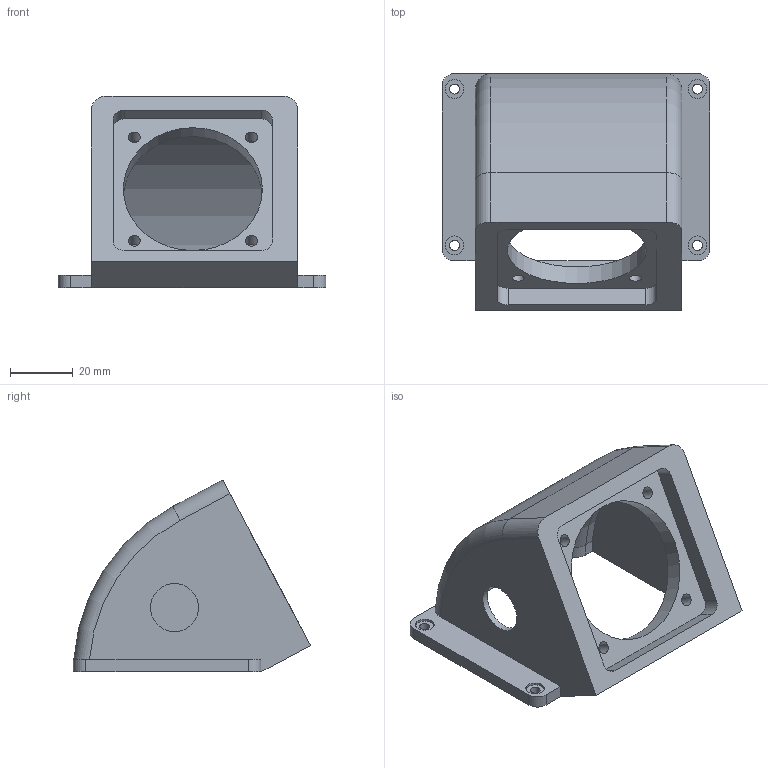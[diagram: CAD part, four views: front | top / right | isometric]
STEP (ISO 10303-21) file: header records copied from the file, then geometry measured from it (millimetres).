
FILE_DESCRIPTION(/* description */ (''),/* implementation_level */ '2;1');
FILE_NAME(/* name */ 'C:\Users\Karol\Documents\Inventor\gniazdo_desktop\Under-Desk_Socket_Module.stp',/* time_stamp */ '2026-03-14T22:24:06+01:00',/* author */ ('Karol'),/* organization */ (''),/* preprocessor_version */ 'ST-DEVELOPER v16.1',/* originating_system */ 'Autodesk Inventor 2016',/* authorisation */ '');
FILE_SCHEMA (('AUTOMOTIVE_DESIGN { 1 0 10303 214 3 1 1 }'));
Length unit declared in the file: millimetre
Products named in the file (1): korpus_dolny
Bounding box: 85.72 x 75.89 x 61.43 mm (x, y, z)
Volume: 53371.9 mm3; surface area: 30344.6 mm2
Topology: 1 solids, 1 shells, 84 faces, 217 edges, 140 vertices
Faces by surface type: plane 40, cylinder 34, bspline 6, torus 4
Full cylindrical faces by diameter (mm): 3.2 x4, 3.8 x4, 6 x4, 15.4 x1, 44.5 x1
Entity records: 2899 total; most frequent: CARTESIAN_POINT 810, DIRECTION 425, ORIENTED_EDGE 406, EDGE_CURVE 203, AXIS2_PLACEMENT_3D 153, VERTEX_POINT 140, EDGE_LOOP 123, LINE 119
